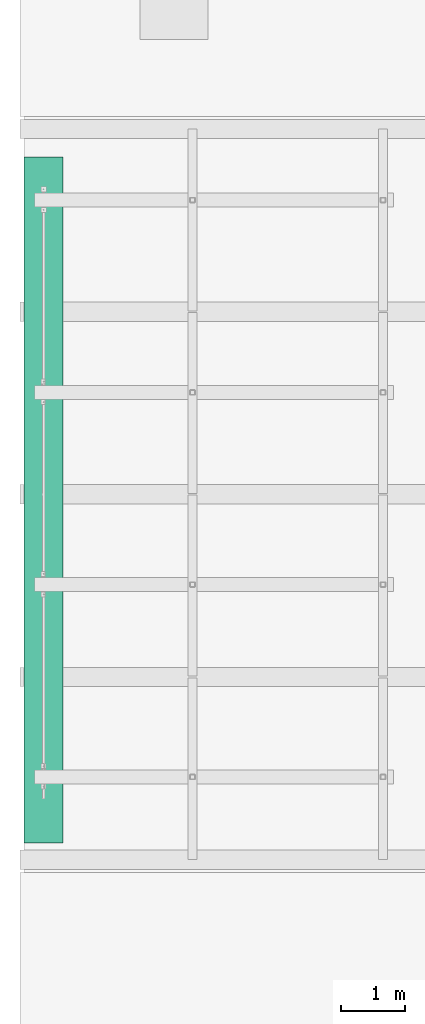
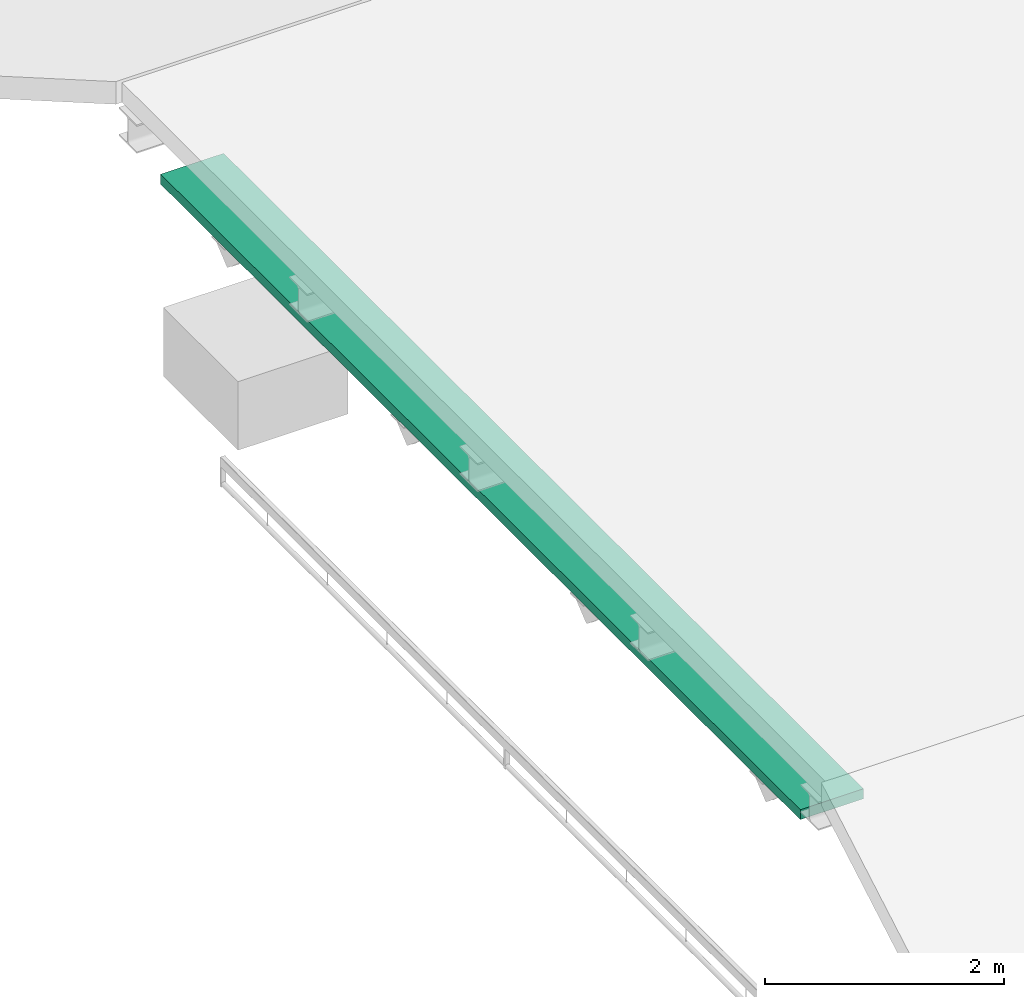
# One storey, part 3 of 3: 1 flow segment.
"""IFC2X3 building model written with IfcOpenShell, lengths in millimetres."""

from ifc_helpers import new_model, entity, si_unit, converted_unit, direction, frame, frame_2d, origin, place, context, subcontext, project, spatial, rectangle, extrude, type_object, element, save


model = new_model("IFC2X3")

# Units and contexts
model_context = context("Model", 3, precision=0.01, world=origin(), true_north=direction((6.123233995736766e-17, 1.0)))
body_context = subcontext(model_context, "Body", "Model", "MODEL_VIEW")
ifc_project = project(units=[si_unit("LENGTHUNIT", "METRE", prefix="MILLI"), si_unit("AREAUNIT", "SQUARE_METRE"), converted_unit("PLANEANGLEUNIT", "DEGREE", entity("IfcPlaneAngleMeasure", 0.017453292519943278), si_unit("PLANEANGLEUNIT", "RADIAN"), dimensions=[0, 0, 0, 0, 0, 0, 0])], contexts=[model_context])

# Site, building, storey
site_placement = place(None, origin())
site = spatial("IfcSite", under=ifc_project, at=site_placement, Name="Default", CompositionType="ELEMENT")
building_placement = place(site_placement, origin())
building = spatial("IfcBuilding", under=site, at=building_placement, CompositionType="ELEMENT")
storey_placement = place(building_placement, frame((0.0, 0.0, 22086.36143577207)))
storey = spatial("IfcBuildingStorey", under=building, at=storey_placement, Name="Dak binnendooszaal", CompositionType="ELEMENT", Elevation=22086.36143577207)

# Flow segment
cable_carrier_segment_type = type_object("IfcCableCarrierSegmentType", Name="Cable Tray without Fittings:Wire Mesh Cable Tray", PredefinedType="CABLETRAYSEGMENT")
flow_segment_placement = place(storey_placement, origin())
element("IfcFlowSegment", 1, at=flow_segment_placement, inside=storey, type_object=cable_carrier_segment_type, Name="Cable Tray without Fittings:Wire Mesh Cable Tray", ObjectType="Cable Tray without Fittings:Wire Mesh Cable Tray", context=body_context, shape_type="SweptSolid", body=[
    extrude(rectangle(XDim=10700.000000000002, YDim=609.6, at=frame_2d((4.547473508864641e-12, 0.0), x_axis=(1.0, 0.0))), frame((25660.5449314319, 24443.15125950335, -450.8000000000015), z_axis=(0.0, 0.0, 1.0), x_axis=(0.0, 1.0, 0.0)), (0.0, 0.0, 1.0), 101.6000000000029),
])

save(model, "model.ifc")
